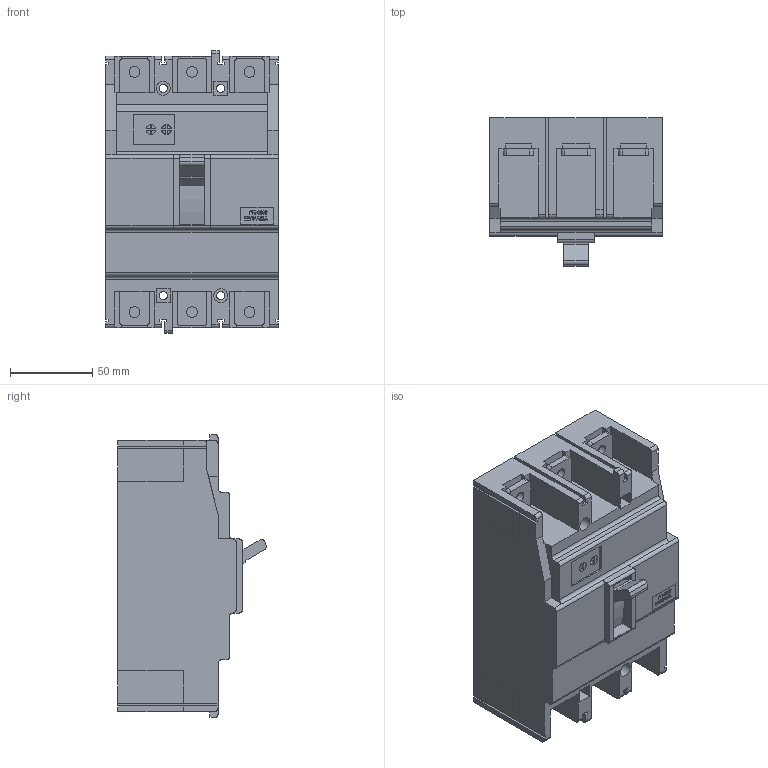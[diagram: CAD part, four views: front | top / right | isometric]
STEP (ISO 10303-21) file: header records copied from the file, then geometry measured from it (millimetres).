
FILE_DESCRIPTION((''),'2;1');
FILE_NAME('S160NJ3160','2012-09-20T',('cmahecha'),(''),'PRO/ENGINEER BY PARAMETRIC TECHNOLOGY CORPORATION, 2010280','PRO/ENGINEER BY PARAMETRIC TECHNOLOGY CORPORATION, 2010280','');
FILE_SCHEMA(('CONFIG_CONTROL_DESIGN'));
Length unit declared in the file: millimetre
Products named in the file (1): S160NJ3160
Bounding box: 105 x 90.39 x 172 mm (x, y, z)
Volume: 1004743.2 mm3; surface area: 97939.7 mm2
Topology: 1 solids, 1 shells, 678 faces, 1901 edges, 1260 vertices
Faces by surface type: plane 606, cylinder 72
Entity records: 21563 total; most frequent: CARTESIAN_POINT 3839, ORIENTED_EDGE 3802, DIRECTION 3413, EDGE_CURVE 1901, VECTOR 1745, LINE 1745, VERTEX_POINT 1260, AXIS2_PLACEMENT_3D 834
